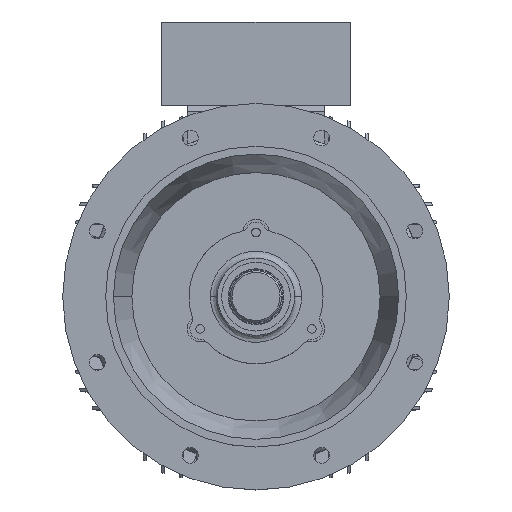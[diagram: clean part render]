
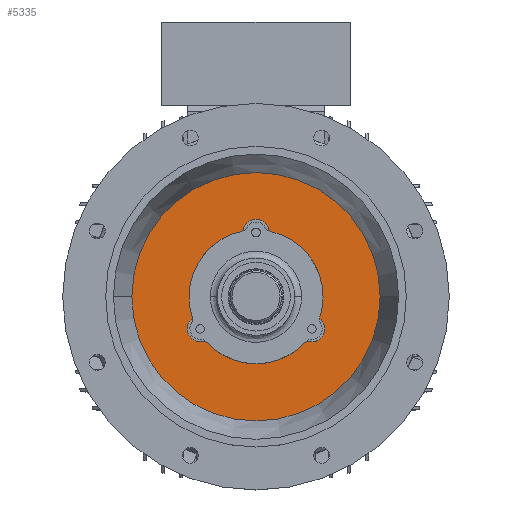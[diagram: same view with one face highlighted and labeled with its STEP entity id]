
A CAD part, top view. The second image highlights one B-rep face of the part: STEP entity #5335.
In plain terms, the highlighted planar face has unit normal (0, 0, 1) as drawn and (-1, 0, 0) by its records, which use the part's own axes.
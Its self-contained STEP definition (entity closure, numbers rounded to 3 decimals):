
#3760 = CARTESIAN_POINT ( 'NONE',  ( 59., 0., -144.526 ) ) ;
#3765 = CARTESIAN_POINT ( 'NONE',  ( 59., -51.2, -58.844 ) ) ;
#3781 = CARTESIAN_POINT ( 'NONE',  ( 59., 0., 144.526 ) ) ;
#3840 = CARTESIAN_POINT ( 'NONE',  ( 59., -25.36, -73.762 ) ) ;
#3885 = CARTESIAN_POINT ( 'NONE',  ( 59., -51.2, 58.844 ) ) ;
#3890 = CARTESIAN_POINT ( 'NONE',  ( 59., -37.5, -79.952 ) ) ;
#4046 = CARTESIAN_POINT ( 'NONE',  ( 59., -25.36, 73.762 ) ) ;
#4285 = CARTESIAN_POINT ( 'NONE',  ( 59., 76.56, 14.919 ) ) ;
#4322 = CARTESIAN_POINT ( 'NONE',  ( 59., 76.56, -14.919 ) ) ;
#4381 = CARTESIAN_POINT ( 'NONE',  ( 59., 0., 78. ) ) ;
#5069 = CARTESIAN_POINT ( 'NONE',  ( 59., 0., 0. ) ) ;
#5070 = DIRECTION ( 'NONE',  ( -1., 0., 0. ) ) ;
#5071 = DIRECTION ( 'NONE',  ( 0., 0., 1. ) ) ;
#5092 = CARTESIAN_POINT ( 'NONE',  ( 59., 0., 0. ) ) ;
#5093 = DIRECTION ( 'NONE',  ( -1., 0., 0. ) ) ;
#5094 = DIRECTION ( 'NONE',  ( 0., 0., 1. ) ) ;
#5105 = CARTESIAN_POINT ( 'NONE',  ( 59., -37.5, -64.952 ) ) ;
#5106 = DIRECTION ( 'NONE',  ( -1., 0., 0. ) ) ;
#5107 = DIRECTION ( 'NONE',  ( 0., 0., -1. ) ) ;
#5253 = EDGE_CURVE ( 'NONE', #12806, #12827, #14145, .T. ) ;
#5261 = EDGE_CURVE ( 'NONE', #13092, #13428, #14154, .T. ) ;
#5267 = EDGE_CURVE ( 'NONE', #12936, #12811, #14165, .T. ) ;
#5335 = ADVANCED_FACE ( 'NONE', ( #14287, #14288 ), #15578, .F. ) ;
#5645 = EDGE_CURVE ( 'NONE', #13332, #13369, #14846, .T. ) ;
#5647 = EDGE_CURVE ( 'NONE', #13369, #12886, #14849, .T. ) ;
#5649 = EDGE_CURVE ( 'NONE', #12886, #12936, #14852, .T. ) ;
#5650 = EDGE_CURVE ( 'NONE', #12811, #12931, #14854, .T. ) ;
#5652 = EDGE_CURVE ( 'NONE', #12931, #13092, #14856, .T. ) ;
#5653 = EDGE_CURVE ( 'NONE', #13428, #13332, #14858, .T. ) ;
#5677 = EDGE_CURVE ( 'NONE', #12827, #12806, #14880, .T. ) ;
#12169 = AXIS2_PLACEMENT_3D ( 'NONE', #5069, #5070, #5071 ) ;
#12173 = AXIS2_PLACEMENT_3D ( 'NONE', #5092, #5093, #5094 ) ;
#12176 = AXIS2_PLACEMENT_3D ( 'NONE', #5105, #5106, #5107 ) ;
#12806 = VERTEX_POINT ( 'NONE', #3760 ) ;
#12811 = VERTEX_POINT ( 'NONE', #3765 ) ;
#12827 = VERTEX_POINT ( 'NONE', #3781 ) ;
#12886 = VERTEX_POINT ( 'NONE', #3840 ) ;
#12931 = VERTEX_POINT ( 'NONE', #3885 ) ;
#12936 = VERTEX_POINT ( 'NONE', #3890 ) ;
#13092 = VERTEX_POINT ( 'NONE', #4046 ) ;
#13332 = VERTEX_POINT ( 'NONE', #4285 ) ;
#13369 = VERTEX_POINT ( 'NONE', #4322 ) ;
#13428 = VERTEX_POINT ( 'NONE', #4381 ) ;
#13841 = EDGE_LOOP ( 'NONE', ( #27675, #27927, #27872, #27655, #27882, #27856, #27854, #27949 ) ) ;
#13856 = EDGE_LOOP ( 'NONE', ( #27691, #27943 ) ) ;
#14145 = CIRCLE ( 'NONE', #12169, 144.526 ) ;
#14154 = CIRCLE ( 'NONE', #12173, 78. ) ;
#14165 = CIRCLE ( 'NONE', #12176, 15. ) ;
#14287 = FACE_OUTER_BOUND ( 'NONE', #13856, .T. ) ;
#14288 = FACE_BOUND ( 'NONE', #13841, .T. ) ;
#14846 = CIRCLE ( 'NONE', #15335, 15. ) ;
#14849 = CIRCLE ( 'NONE', #15336, 78. ) ;
#14852 = CIRCLE ( 'NONE', #15337, 15. ) ;
#14854 = CIRCLE ( 'NONE', #15338, 78. ) ;
#14856 = CIRCLE ( 'NONE', #15339, 15. ) ;
#14858 = CIRCLE ( 'NONE', #15340, 78. ) ;
#14880 = CIRCLE ( 'NONE', #15345, 144.526 ) ;
#15073 = AXIS2_PLACEMENT_3D ( 'NONE', #15576, #15575, #15580 ) ;
#15335 = AXIS2_PLACEMENT_3D ( 'NONE', #16830, #16831, #16832 ) ;
#15336 = AXIS2_PLACEMENT_3D ( 'NONE', #16833, #16834, #16835 ) ;
#15337 = AXIS2_PLACEMENT_3D ( 'NONE', #16838, #16839, #16840 ) ;
#15338 = AXIS2_PLACEMENT_3D ( 'NONE', #16841, #16842, #16843 ) ;
#15339 = AXIS2_PLACEMENT_3D ( 'NONE', #16847, #16848, #16849 ) ;
#15340 = AXIS2_PLACEMENT_3D ( 'NONE', #16852, #16853, #16854 ) ;
#15345 = AXIS2_PLACEMENT_3D ( 'NONE', #16939, #16940, #16941 ) ;
#15575 = DIRECTION ( 'NONE',  ( 1., 0., 0. ) ) ;
#15576 = CARTESIAN_POINT ( 'NONE',  ( 59., 144.526, 0. ) ) ;
#15578 = PLANE ( 'NONE',  #15073 ) ;
#15580 = DIRECTION ( 'NONE',  ( 0., 0., -1. ) ) ;
#16830 = CARTESIAN_POINT ( 'NONE',  ( 59., 75., 0. ) ) ;
#16831 = DIRECTION ( 'NONE',  ( -1., 0., 0. ) ) ;
#16832 = DIRECTION ( 'NONE',  ( 0., 0., -1. ) ) ;
#16833 = CARTESIAN_POINT ( 'NONE',  ( 59., 0., 0. ) ) ;
#16834 = DIRECTION ( 'NONE',  ( -1., 0., 0. ) ) ;
#16835 = DIRECTION ( 'NONE',  ( 0., 0., 1. ) ) ;
#16838 = CARTESIAN_POINT ( 'NONE',  ( 59., -37.5, -64.952 ) ) ;
#16839 = DIRECTION ( 'NONE',  ( -1., 0., 0. ) ) ;
#16840 = DIRECTION ( 'NONE',  ( 0., 0., -1. ) ) ;
#16841 = CARTESIAN_POINT ( 'NONE',  ( 59., 0., 0. ) ) ;
#16842 = DIRECTION ( 'NONE',  ( -1., 0., 0. ) ) ;
#16843 = DIRECTION ( 'NONE',  ( 0., 0., 1. ) ) ;
#16847 = CARTESIAN_POINT ( 'NONE',  ( 59., -37.5, 64.952 ) ) ;
#16848 = DIRECTION ( 'NONE',  ( -1., 0., 0. ) ) ;
#16849 = DIRECTION ( 'NONE',  ( 0., 0., -1. ) ) ;
#16852 = CARTESIAN_POINT ( 'NONE',  ( 59., 0., 0. ) ) ;
#16853 = DIRECTION ( 'NONE',  ( -1., 0., 0. ) ) ;
#16854 = DIRECTION ( 'NONE',  ( 0., 0., 1. ) ) ;
#16939 = CARTESIAN_POINT ( 'NONE',  ( 59., 0., 0. ) ) ;
#16940 = DIRECTION ( 'NONE',  ( -1., 0., 0. ) ) ;
#16941 = DIRECTION ( 'NONE',  ( 0., 0., 1. ) ) ;
#27655 = ORIENTED_EDGE ( 'NONE', *, *, #5649, .F. ) ;
#27675 = ORIENTED_EDGE ( 'NONE', *, *, #5652, .F. ) ;
#27691 = ORIENTED_EDGE ( 'NONE', *, *, #5677, .T. ) ;
#27854 = ORIENTED_EDGE ( 'NONE', *, *, #5653, .F. ) ;
#27856 = ORIENTED_EDGE ( 'NONE', *, *, #5645, .F. ) ;
#27872 = ORIENTED_EDGE ( 'NONE', *, *, #5267, .F. ) ;
#27882 = ORIENTED_EDGE ( 'NONE', *, *, #5647, .F. ) ;
#27927 = ORIENTED_EDGE ( 'NONE', *, *, #5650, .F. ) ;
#27943 = ORIENTED_EDGE ( 'NONE', *, *, #5253, .T. ) ;
#27949 = ORIENTED_EDGE ( 'NONE', *, *, #5261, .F. ) ;
